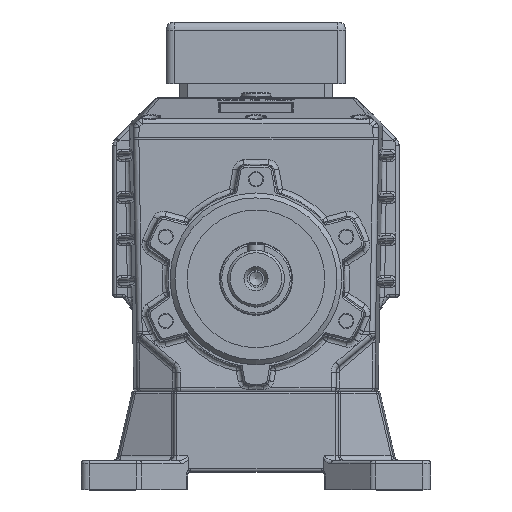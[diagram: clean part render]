
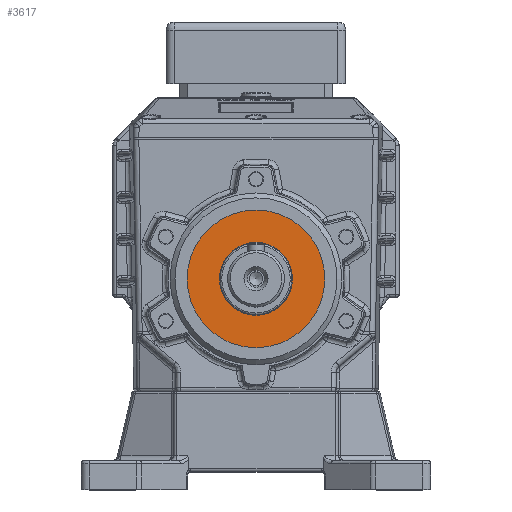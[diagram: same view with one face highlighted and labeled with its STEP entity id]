
A CAD part, top view. The second image highlights one B-rep face of the part: STEP entity #3617.
In plain terms, the highlighted planar face has unit normal (0, 0, 1).
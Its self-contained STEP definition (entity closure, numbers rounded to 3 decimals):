
#3617 = ADVANCED_FACE( '', ( #8119, #8120 ), #8121, .F. );
#8119 = FACE_BOUND( '', #18071, .T. );
#8120 = FACE_OUTER_BOUND( '', #18072, .T. );
#8121 = PLANE( '', #18073 );
#18071 = EDGE_LOOP( '', ( #32791 ) );
#18072 = EDGE_LOOP( '', ( #32792 ) );
#18073 = AXIS2_PLACEMENT_3D( '', #32793, #32794, #32795 );
#32791 = ORIENTED_EDGE( '', *, *, #42845, .T. );
#32792 = ORIENTED_EDGE( '', *, *, #41926, .F. );
#32793 = CARTESIAN_POINT( '', ( 0., 0., 12. ) );
#32794 = DIRECTION( '', ( 0., 0., -1. ) );
#32795 = DIRECTION( '', ( 1., 0., 0. ) );
#41926 = EDGE_CURVE( '', #49545, #49545, #49546, .T. );
#42845 = EDGE_CURVE( '', #50769, #50769, #50770, .T. );
#49545 = VERTEX_POINT( '', #63048 );
#49546 = CIRCLE( '', #63049, 42.5 );
#50769 = VERTEX_POINT( '', #66147 );
#50770 = CIRCLE( '', #66148, 22.5 );
#63048 = CARTESIAN_POINT( '', ( 0., 42.5, 12. ) );
#63049 = AXIS2_PLACEMENT_3D( '', #73507, #73508, #73509 );
#66147 = CARTESIAN_POINT( '', ( 0., 22.5, 12. ) );
#66148 = AXIS2_PLACEMENT_3D( '', #74374, #74375, #74376 );
#73507 = CARTESIAN_POINT( '', ( 0., 0., 12. ) );
#73508 = DIRECTION( '', ( 0., 0., -1. ) );
#73509 = DIRECTION( '', ( 0., 1., 0. ) );
#74374 = CARTESIAN_POINT( '', ( 0., 0., 12. ) );
#74375 = DIRECTION( '', ( 0., 0., -1. ) );
#74376 = DIRECTION( '', ( 0., 1., 0. ) );
